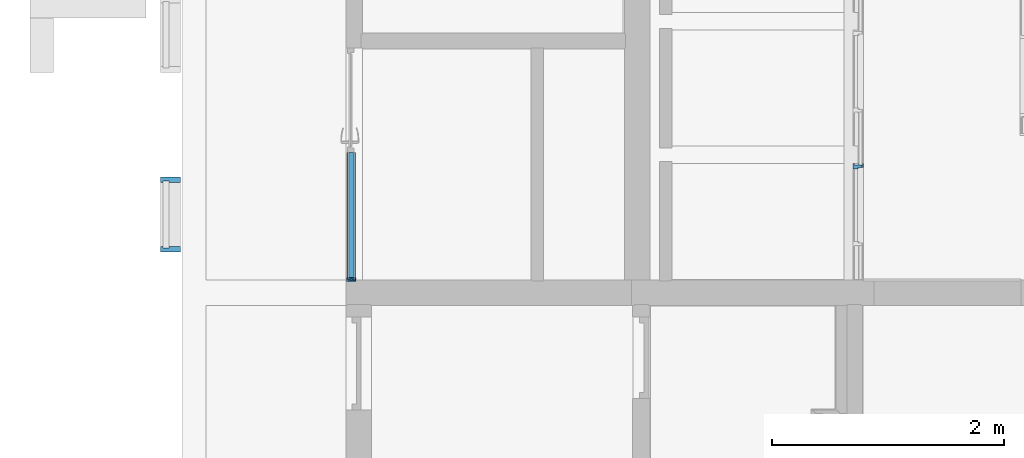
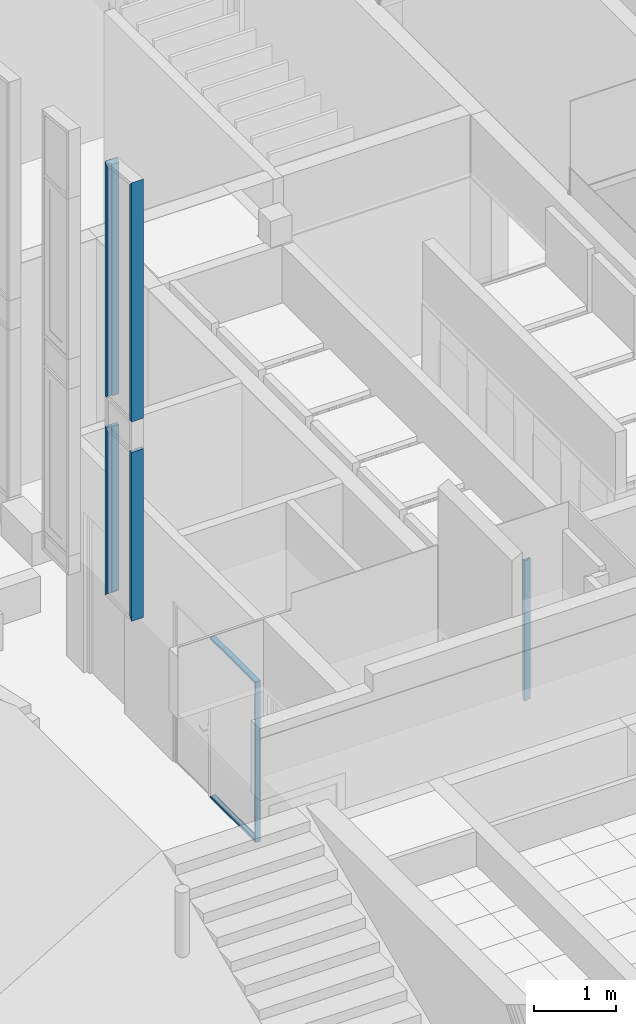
# One storey, part 58 of 246: 8 members, 3 elements without a shape of their own.
"""IFC2X3 building model written with IfcOpenShell, lengths in millimetres."""

from ifc_helpers import new_model, entity, si_unit, converted_unit, derived_unit, money_unit, direction, frame, origin_with_axes, place, context, subcontext, project, spatial, faceted_brep, material, material_list, type_object, element, aggregate, save


model = new_model("IFC2X3")

# Units and contexts
model_context = context("Model", 3, precision=0.01, world=origin_with_axes(), true_north=direction((0.0, 1.0)))
body_context = subcontext(model_context, "Body", "Model", "MODEL_VIEW")
ifc_project = project(units=[si_unit("LENGTHUNIT", "METRE", prefix="MILLI"), si_unit("AREAUNIT", "SQUARE_METRE"), si_unit("VOLUMEUNIT", "CUBIC_METRE"), converted_unit("PLANEANGLEUNIT", "DEGREE", entity("IfcPlaneAngleMeasure", 0.0174532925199), si_unit("PLANEANGLEUNIT", "RADIAN"), dimensions=[0, 0, 0, 0, 0, 0, 0]), si_unit("SOLIDANGLEUNIT", "STERADIAN"), money_unit("EUR"), converted_unit("TIMEUNIT", "Year", entity("IfcTimeMeasure", 31556926.0), si_unit("TIMEUNIT", "SECOND"), dimensions=[0, 0, 1, 0, 0, 0, 0]), si_unit("MASSUNIT", "GRAM", prefix="KILO"), si_unit("THERMODYNAMICTEMPERATUREUNIT", "DEGREE_CELSIUS"), si_unit("LUMINOUSINTENSITYUNIT", "LUMEN"), si_unit("ENERGYUNIT", "JOULE", prefix="MEGA"), derived_unit("THERMALCONDUCTANCEUNIT", [(si_unit("POWERUNIT", "WATT"), 1), (si_unit("LENGTHUNIT", "METRE"), -1), (si_unit("THERMODYNAMICTEMPERATUREUNIT", "KELVIN"), -1)]), derived_unit("SPECIFICHEATCAPACITYUNIT", [(si_unit("ENERGYUNIT", "JOULE"), 1), (si_unit("MASSUNIT", "GRAM", prefix="KILO"), -1), (si_unit("THERMODYNAMICTEMPERATUREUNIT", "KELVIN"), -1)]), derived_unit("MASSDENSITYUNIT", [(si_unit("MASSUNIT", "GRAM", prefix="KILO"), 1), (si_unit("VOLUMEUNIT", "CUBIC_METRE"), -1)])], contexts=[model_context])

# Site, building, storey
site_placement = place(None, origin_with_axes())
site = spatial("IfcSite", under=ifc_project, at=site_placement, Name="L.Koidula tn 11b", CompositionType="ELEMENT")
building_placement = place(site_placement, origin_with_axes())
building = spatial("IfcBuilding", under=site, at=building_placement, Name="Rakvere Riigigümnaasium", CompositionType="ELEMENT")
storey_placement = place(building_placement, origin_with_axes())
storey = spatial("IfcBuildingStorey", under=building, at=storey_placement, Name="1.korrus 0,00", CompositionType="ELEMENT", Elevation=0.0)

# Curtain wall, members
curtain_wall_type = type_object("IfcCurtainWallType", Name="Curtain Wall Type", PredefinedType="NOTDEFINED")
curtain_wall_1_placement = place(storey_placement, frame((35156.0871538, 17885.4554584, 3720.0), z_axis=(0.0, 0.0, 1.0), x_axis=(1.0, 0.0, 0.0)))
curtain_wall_1 = element("IfcCurtainWall", 1, at=curtain_wall_1_placement, inside=storey, type_object=curtain_wall_type, Name="KLF-04-10")
ifc_material_1 = material(Name="Alumiiniumprofiil (RAL 7021)")
member_type_1 = type_object("IfcMemberType", Name="Boundary Frame 50 x 170", PredefinedType="MULLION")
member_1_placement = place(curtain_wall_1_placement, frame((0.0, 324.999939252, 2525.00007113), z_axis=(0.0, 3.86479153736e-08, -1.0), x_axis=(0.0, -1.0, -3.86479153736e-08)))
member_1 = element("IfcMember", 2, at=member_1_placement, type_object=member_type_1, material=ifc_material_1, Name="KLF-04-61-Profiilid", ObjectType="MULLION", context=body_context, shape_type="Brep", body=[
    faceted_brep([(37.0, -26.0, 2488.0000697), (37.0, 26.0, 2488.0000697), (50.0, 26.0, 2475.0000692), (50.0, 46.0, 2475.0000692), (0.0, 46.0, 2525.00007113), (0.0, -124.0, 2525.00007113), (50.0, -124.0, 2475.0000692), (50.0, -26.0, 2475.0000692), (37.0, -26.0, -9.66197788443e-07), (37.0, 26.0, -9.66197788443e-07), (50.0, 26.0, -9.66197788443e-07), (50.0, 46.0, -9.66197788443e-07), (0.0, 46.0, -9.66197788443e-07), (0.0, -124.0, -9.66197788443e-07), (50.0, -124.0, -9.66197788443e-07), (50.0, -26.0, -9.66197788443e-07)], [[[0, 1, 2, 3, 4, 5, 6, 7]], [[1, 0, 8, 9]], [[10, 2, 1, 9]], [[2, 10, 11, 3]], [[12, 4, 3, 11]], [[13, 5, 4, 12]], [[14, 6, 5, 13]], [[15, 7, 6, 14]], [[0, 7, 15, 8]], [[8, 15, 14, 13, 12, 11, 10, 9]]]),
])
member_2_placement = place(curtain_wall_1_placement, frame((0.0, 324.999967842, 6485.07406145), z_axis=(0.0, -8.15677935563e-09, -1.0), x_axis=(0.0, -1.0, 8.15677935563e-09)))
member_2 = element("IfcMember", 3, at=member_2_placement, type_object=member_type_1, material=ifc_material_1, Name="KLF-04-67-Profiilid", ObjectType="MULLION", context=body_context, shape_type="Brep", body=[
    faceted_brep([(37.0, -26.0, 3505.07399052), (37.0, 26.0, 3505.07399052), (50.0, 26.0, 3505.07399052), (50.0, 46.0, 3505.07399052), (0.0, 46.0, 3505.07399052), (0.0, -124.0, 3505.07399052), (50.0, -124.0, 3505.07399052), (50.0, -26.0, 3505.07399052), (37.0, -26.0, 33.3149495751), (37.0, 26.0, 33.3149495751), (50.0, 26.0, 45.0202021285), (50.0, 46.0, 45.0202021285), (0.0, 46.0, 0.0), (0.0, -124.0, 0.0), (50.0, -124.0, 45.0202021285), (50.0, -26.0, 45.0202021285)], [[[0, 1, 2, 3, 4, 5, 6, 7]], [[1, 0, 8, 9]], [[10, 2, 1, 9]], [[2, 10, 11, 3]], [[4, 3, 11, 12]], [[5, 4, 12, 13]], [[6, 5, 13, 14]], [[15, 7, 6, 14]], [[0, 7, 15, 8]], [[8, 15, 14, 13, 12, 11, 10, 9]]]),
])
member_3_placement = place(curtain_wall_1_placement, frame((0.0, -324.999953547, 2980.00007113), z_axis=(0.0, 0.0, 1.0), x_axis=(0.0, 1.0, 0.0)))
member_3 = element("IfcMember", 4, at=member_3_placement, type_object=member_type_1, material=ifc_material_1, Name="KLF-04-65-Profiilid", ObjectType="MULLION", context=body_context, shape_type="Brep", body=[
    faceted_brep([(37.0, -26.0, 3532.29907813), (37.0, 26.0, 3532.29907813), (50.0, 26.0, 3517.86111529), (50.0, 46.0, 3517.86111529), (0.0, 46.0, 3573.39174159), (0.0, -124.0, 3573.39174159), (50.0, -124.0, 3517.86111529), (50.0, -26.0, 3517.86111529), (37.0, -26.0, -1.00310337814e-06), (37.0, 26.0, -1.00310337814e-06), (50.0, 26.0, -1.00310360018e-06), (50.0, 46.0, -1.00310360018e-06), (0.0, 46.0, -1.00310360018e-06), (0.0, -124.0, -1.00310360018e-06), (50.0, -124.0, -1.00310360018e-06), (50.0, -26.0, -1.00310360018e-06)], [[[0, 1, 2, 3, 4, 5, 6, 7]], [[1, 0, 8, 9]], [[10, 2, 1, 9]], [[2, 10, 11, 3]], [[12, 4, 3, 11]], [[13, 5, 4, 12]], [[14, 6, 5, 13]], [[15, 7, 6, 14]], [[0, 7, 15, 8]], [[8, 15, 14, 13, 12, 11, 10, 9]]]),
])
member_4_placement = place(curtain_wall_1_placement, frame((0.0, -324.999971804, 0.0), z_axis=(0.0, 0.0, 1.0), x_axis=(0.0, 1.0, 0.0)))
member_4 = element("IfcMember", 5, at=member_4_placement, type_object=member_type_1, material=ifc_material_1, Name="KLF-04-63-Profiilid", ObjectType="MULLION", context=body_context, shape_type="Brep", body=[
    faceted_brep([(37.0, -26.0, 2525.00007213), (37.0, 26.0, 2525.00007213), (50.0, 26.0, 2525.00007213), (50.0, 46.0, 2525.00007213), (0.0, 46.0, 2525.00007213), (0.0, -124.0, 2525.00007213), (50.0, -124.0, 2525.00007213), (50.0, -26.0, 2525.00007213), (37.0, -26.0, 37.0), (37.0, 26.0, 37.0), (50.0, 26.0, 50.0), (50.0, 46.0, 50.0), (0.0, 46.0, 0.0), (0.0, -124.0, 0.0), (50.0, -124.0, 50.0), (50.0, -26.0, 50.0)], [[[0, 1, 2, 3, 4, 5, 6, 7]], [[1, 0, 8, 9]], [[10, 2, 1, 9]], [[2, 10, 11, 3]], [[4, 3, 11, 12]], [[5, 4, 12, 13]], [[6, 5, 13, 14]], [[15, 7, 6, 14]], [[0, 7, 15, 8]], [[8, 15, 14, 13, 12, 11, 10, 9]]]),
])
aggregate(curtain_wall_1, [member_1, member_2, member_3, member_4])

curtain_wall_2_placement = place(storey_placement, frame((36749.0000697, 18870.4397072, 0.0), z_axis=(0.0, 0.0, 1.0), x_axis=(1.0, 0.0, 0.0)))
curtain_wall_2 = element("IfcCurtainWall", 6, at=curtain_wall_2_placement, inside=storey, type_object=curtain_wall_type, Name="SKLF-06")
ifc_material_2 = material(Name="Klaasvill")
ifc_material_3 = material(Name="Teras RAL7012")
ifc_material_list_1 = material_list([ifc_material_2, ifc_material_3])
member_type_2 = type_object("IfcMemberType", Name="Boundary Frame 30 x 42", PredefinedType="MULLION")
member_5_placement = place(curtain_wall_2_placement, frame((0.0, -450.0, 2400.00000748), z_axis=(0.0, -1.0, 0.0), x_axis=(0.0, 0.0, 1.0)))
member_5 = element("IfcMember", 7, at=member_5_placement, type_object=member_type_2, material=ifc_material_list_1, Name="SKLF-83-raam", ObjectType="MULLION", context=body_context, shape_type="Brep", body=[
    faceted_brep([(-7.49999990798, 15.000000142, 0.0), (-7.49999990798, 15.000000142, 1102.48412766), (-13.8499999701, 15.000000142, 1096.1341276), (-13.8499999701, 15.000000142, 0.0), (-7.49999990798, 29.0161444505, 0.0), (-7.49999990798, 29.0161444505, 1102.48412766), (-13.8499999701, 29.0161444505, 1096.1341276), (-13.8499999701, 29.0161444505, 0.0)], [[[0, 1, 2, 3]], [[4, 5, 1, 0]], [[1, 5, 6, 2]], [[3, 2, 6, 7]], [[0, 3, 7, 4]], [[7, 6, 5, 4]]]),
    faceted_brep([(-24.987414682, 29.0161444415, 0.0), (-24.987414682, 29.0161444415, 1084.99671289), (-25.004489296, 27.0307503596, 1084.97963827), (-25.004489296, 27.0307503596, 0.0), (-28.5126239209, 29.0161444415, 0.0), (-28.5126239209, 29.0161444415, 1081.47150365), (-28.7655837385, 28.0385325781, 1081.21854383), (-28.4955493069, 27.0307503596, 1081.48857826), (-27.75780152, 26.2930025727, 1082.22632605), (-26.7500193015, 26.0229681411, 1083.23410827), (-25.742237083, 26.2930025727, 1084.24189049), (-25.742237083, 26.2930025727, 0.0), (-26.7500193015, 26.0229681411, 0.0), (-27.75780152, 26.2930025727, 0.0), (-28.4955493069, 27.0307503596, 0.0), (-28.7655837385, 28.0385325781, 0.0)], [[[0, 1, 2, 3]], [[4, 5, 1, 0]], [[1, 5, 6, 7, 8, 9, 10, 2]], [[3, 2, 10, 11]], [[0, 3, 11, 12, 13, 14, 15, 4]], [[15, 6, 5, 4]], [[14, 7, 6, 15]], [[13, 8, 7, 14]], [[12, 9, 8, 13]], [[11, 10, 9, 12]]]),
    faceted_brep([(-7.49999990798, -24.9999997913, 0.0), (-7.49999990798, -24.9999997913, 1102.48412766), (-7.49999990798, -39.0161445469, 1102.48412766), (-7.49999990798, -39.0161445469, 0.0), (-13.8499999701, -24.9999997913, 0.0), (-13.8499999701, -24.9999997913, 1096.1341276), (-13.8499999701, -39.0161445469, 1096.1341276), (-13.8499999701, -39.0161445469, 0.0)], [[[0, 1, 2, 3]], [[4, 5, 1, 0]], [[1, 5, 6, 2]], [[3, 2, 6, 7]], [[0, 3, 7, 4]], [[7, 6, 5, 4]]]),
    faceted_brep([(-25.004489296, -37.0307503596, 0.0), (-25.004489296, -37.0307503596, 1084.97963827), (-24.987414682, -39.0161444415, 1084.99671289), (-24.987414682, -39.0161444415, 0.0), (-25.742237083, -36.2930025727, 0.0), (-25.742237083, -36.2930025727, 1084.24189049), (-26.7500193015, -36.0229681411, 1083.23410827), (-27.75780152, -36.2930025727, 1082.22632605), (-28.4955493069, -37.0307503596, 1081.48857826), (-28.7655837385, -38.0385325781, 1081.21854383), (-28.5126239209, -39.0161444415, 1081.47150365), (-28.5126239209, -39.0161444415, 0.0), (-28.7655837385, -38.0385325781, 0.0), (-28.4955493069, -37.0307503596, 0.0), (-27.75780152, -36.2930025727, 0.0), (-26.7500193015, -36.0229681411, 0.0)], [[[0, 1, 2, 3]], [[4, 5, 1, 0]], [[1, 5, 6, 7, 8, 9, 10, 2]], [[3, 2, 10, 11]], [[0, 3, 11, 12, 13, 14, 15, 4]], [[15, 6, 5, 4]], [[14, 7, 6, 15]], [[13, 8, 7, 14]], [[12, 9, 8, 13]], [[11, 10, 9, 12]]]),
    faceted_brep([(0.0, -22.0000000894, 0.0), (0.0, -22.0000000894, 1109.98412757), (-29.5999996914, -22.0000000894, 1080.38412788), (-29.5999996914, -22.0000000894, 0.0), (0.0, 12.0000000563, 0.0), (0.0, 12.0000000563, 1109.98412757), (-29.5999996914, 12.0000000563, 1080.38412788), (-1.9999999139, 10.0000001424, 1107.98412766), (-1.9999999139, -20.0000001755, 1107.98412766), (-18.7999996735, -20.0000001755, 1091.1841279), (-18.7999996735, 10.0000001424, 1091.1841279), (-29.5999996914, 12.0000000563, 0.0), (-1.9999999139, 10.0000001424, 0.0), (-18.7999996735, 10.0000001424, 0.0), (-18.7999996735, -20.0000001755, 0.0), (-1.9999999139, -20.0000001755, 0.0)], [[[0, 1, 2, 3]], [[4, 5, 1, 0]], [[1, 5, 6, 2], [7, 8, 9, 10]], [[3, 2, 6, 11]], [[0, 3, 11, 4], [12, 13, 14, 15]], [[11, 6, 5, 4]], [[15, 8, 7, 12]], [[14, 9, 8, 15]], [[13, 10, 9, 14]], [[12, 7, 10, 13]]]),
    faceted_brep([(0.0, 12.0, 0.0), (0.0, 12.0, 1109.98412757), (-29.5999996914, 12.0000000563, 1080.38412788), (-29.5999996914, 12.0000000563, 0.0), (0.0, 32.0, 0.0), (0.0, 32.0, 1109.98412757), (-30.0000193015, 32.0, 1079.98410827), (-30.0000193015, 29.0161444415, 1079.98410827), (-28.5126239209, 29.0161444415, 1081.47150365), (-24.987414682, 29.0161444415, 1084.99671289), (-13.8499999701, 29.0161444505, 1096.1341276), (-7.49999999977, 29.0161444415, 1102.48412757), (-7.49999999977, 15.0, 1102.48412757), (-13.8499999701, 15.000000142, 1096.1341276), (-30.0000193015, 15.0, 1079.98410827), (-30.0000193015, 12.0, 1079.98410827), (-30.0000193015, 12.0, 0.0), (-30.0000193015, 15.0, 0.0), (-13.8499999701, 15.000000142, 0.0), (-7.49999999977, 15.0, 0.0), (-7.49999999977, 29.0161444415, 0.0), (-13.8499999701, 29.0161444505, 0.0), (-24.987414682, 29.0161444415, 0.0), (-28.5126239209, 29.0161444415, 0.0), (-30.0000193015, 29.0161444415, 0.0), (-30.0000193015, 32.0, 0.0)], [[[0, 1, 2, 3]], [[4, 5, 1, 0]], [[1, 5, 6, 7, 8, 9, 10, 11, 12, 13, 14, 15, 2]], [[3, 2, 15, 16]], [[0, 3, 16, 17, 18, 19, 20, 21, 22, 23, 24, 25, 4]], [[25, 6, 5, 4]], [[24, 7, 6, 25]], [[23, 8, 7, 24]], [[22, 9, 8, 23]], [[21, 10, 9, 22]], [[20, 11, 10, 21]], [[19, 12, 11, 20]], [[18, 13, 12, 19]], [[17, 14, 13, 18]], [[16, 15, 14, 17]]]),
    faceted_brep([(0.0, -22.0, 0.0), (0.0, -22.0, 1109.98412757), (0.0, -42.0, 1109.98412757), (0.0, -42.0, 0.0), (-29.5999996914, -22.0000000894, 0.0), (-29.5999996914, -22.0000000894, 1080.38412788), (-30.0000193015, -22.0, 1079.98410827), (-30.0000193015, -25.0, 1079.98410827), (-13.8499999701, -24.9999997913, 1096.1341276), (-7.49999999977, -25.0, 1102.48412757), (-7.49999999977, -39.0161444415, 1102.48412757), (-13.8499999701, -39.0161445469, 1096.1341276), (-24.987414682, -39.0161444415, 1084.99671289), (-28.5126239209, -39.0161444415, 1081.47150365), (-30.0000193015, -39.0161444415, 1079.98410827), (-30.0000193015, -42.0, 1079.98410827), (-30.0000193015, -42.0, 0.0), (-30.0000193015, -39.0161444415, 0.0), (-28.5126239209, -39.0161444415, 0.0), (-24.987414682, -39.0161444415, 0.0), (-13.8499999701, -39.0161445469, 0.0), (-7.49999999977, -39.0161444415, 0.0), (-7.49999999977, -25.0, 0.0), (-13.8499999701, -24.9999997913, 0.0), (-30.0000193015, -25.0, 0.0), (-30.0000193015, -22.0, 0.0)], [[[0, 1, 2, 3]], [[4, 5, 1, 0]], [[1, 5, 6, 7, 8, 9, 10, 11, 12, 13, 14, 15, 2]], [[3, 2, 15, 16]], [[0, 3, 16, 17, 18, 19, 20, 21, 22, 23, 24, 25, 4]], [[25, 6, 5, 4]], [[24, 7, 6, 25]], [[23, 8, 7, 24]], [[22, 9, 8, 23]], [[21, 10, 9, 22]], [[20, 11, 10, 21]], [[19, 12, 11, 20]], [[18, 13, 12, 19]], [[17, 14, 13, 18]], [[16, 15, 14, 17]]]),
])
member_6_placement = place(curtain_wall_2_placement, frame((0.0, -1559.98412757, 0.0), z_axis=(0.0, 0.0, 1.0), x_axis=(0.0, 1.0, 0.0)))
member_6 = element("IfcMember", 8, at=member_6_placement, type_object=member_type_2, material=ifc_material_list_1, Name="SKLF-82-raam", ObjectType="MULLION", context=body_context, shape_type="Brep", body=[
    faceted_brep([(13.8499999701, 15.000000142, 13.8499999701), (13.8499999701, 15.000000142, 2386.15000751), (7.49999990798, 15.000000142, 2392.50000757), (7.49999990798, 15.000000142, 7.49999990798), (13.8499999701, 29.0161444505, 13.8499999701), (13.8499999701, 29.0161444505, 2386.15000751), (7.49999990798, 29.0161444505, 2392.50000757), (7.49999990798, 29.0161444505, 7.49999990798)], [[[0, 1, 2, 3]], [[4, 5, 1, 0]], [[2, 1, 5, 6]], [[3, 2, 6, 7]], [[3, 7, 4, 0]], [[7, 6, 5, 4]]]),
    faceted_brep([(25.004489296, 27.0307503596, 25.004489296), (25.004489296, 27.0307503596, 2374.99551818), (24.987414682, 29.0161444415, 2375.0125928), (24.987414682, 29.0161444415, 24.987414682), (25.742237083, 26.2930025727, 25.742237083), (25.742237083, 26.2930025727, 2374.2577704), (26.7500193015, 26.0229681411, 2373.24998818), (27.75780152, 26.2930025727, 2372.24220596), (28.4955493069, 27.0307503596, 2371.50445817), (28.7655837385, 28.0385325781, 2371.23442374), (28.5126239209, 29.0161444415, 2371.48738356), (28.5126239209, 29.0161444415, 28.5126239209), (28.7655837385, 28.0385325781, 28.7655837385), (28.4955493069, 27.0307503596, 28.4955493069), (27.75780152, 26.2930025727, 27.75780152), (26.7500193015, 26.0229681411, 26.7500193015)], [[[0, 1, 2, 3]], [[4, 5, 1, 0]], [[2, 1, 5, 6, 7, 8, 9, 10]], [[3, 2, 10, 11]], [[3, 11, 12, 13, 14, 15, 4, 0]], [[15, 6, 5, 4]], [[14, 7, 6, 15]], [[13, 8, 7, 14]], [[12, 9, 8, 13]], [[11, 10, 9, 12]]]),
    faceted_brep([(7.49999990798, -39.0161445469, 7.49999990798), (7.49999990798, -39.0161445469, 2392.50000757), (7.49999990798, -24.9999997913, 2392.50000757), (7.49999990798, -24.9999997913, 7.49999990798), (13.8499999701, -39.0161445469, 13.8499999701), (13.8499999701, -39.0161445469, 2386.15000751), (13.8499999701, -24.9999997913, 2386.15000751), (13.8499999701, -24.9999997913, 13.8499999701)], [[[0, 1, 2, 3]], [[4, 5, 1, 0]], [[2, 1, 5, 6]], [[3, 2, 6, 7]], [[3, 7, 4, 0]], [[7, 6, 5, 4]]]),
    faceted_brep([(24.987414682, -39.0161444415, 24.987414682), (24.987414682, -39.0161444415, 2375.0125928), (25.004489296, -37.0307503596, 2374.99551818), (25.004489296, -37.0307503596, 25.004489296), (28.5126239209, -39.0161444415, 28.5126239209), (28.5126239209, -39.0161444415, 2371.48738356), (28.7655837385, -38.0385325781, 2371.23442374), (28.4955493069, -37.0307503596, 2371.50445817), (27.75780152, -36.2930025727, 2372.24220596), (26.7500193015, -36.0229681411, 2373.24998818), (25.742237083, -36.2930025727, 2374.2577704), (25.742237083, -36.2930025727, 25.742237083), (26.7500193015, -36.0229681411, 26.7500193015), (27.75780152, -36.2930025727, 27.75780152), (28.4955493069, -37.0307503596, 28.4955493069), (28.7655837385, -38.0385325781, 28.7655837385)], [[[0, 1, 2, 3]], [[4, 5, 1, 0]], [[2, 1, 5, 6, 7, 8, 9, 10]], [[3, 2, 10, 11]], [[3, 11, 12, 13, 14, 15, 4, 0]], [[15, 6, 5, 4]], [[14, 7, 6, 15]], [[13, 8, 7, 14]], [[12, 9, 8, 13]], [[11, 10, 9, 12]]]),
    faceted_brep([(29.5999996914, -22.0000000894, 29.5999996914), (29.5999996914, -22.0000000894, 2370.40000779), (0.0, -22.0000000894, 2400.00000748), (0.0, -22.0000000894, 0.0), (29.5999996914, 12.0000000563, 29.5999996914), (29.5999996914, 12.0000000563, 2370.40000779), (0.0, 12.0000000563, 2400.00000748), (1.9999999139, 10.0000001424, 2398.00000756), (18.7999996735, 10.0000001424, 2381.20000781), (18.7999996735, -20.0000001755, 2381.20000781), (1.9999999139, -20.0000001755, 2398.00000756), (0.0, 12.0000000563, 0.0), (1.9999999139, 10.0000001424, 1.9999999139), (1.9999999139, -20.0000001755, 1.9999999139), (18.7999996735, -20.0000001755, 18.7999996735), (18.7999996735, 10.0000001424, 18.7999996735)], [[[0, 1, 2, 3]], [[4, 5, 1, 0]], [[2, 1, 5, 6], [7, 8, 9, 10]], [[3, 2, 6, 11]], [[3, 11, 4, 0], [12, 13, 14, 15]], [[11, 6, 5, 4]], [[15, 8, 7, 12]], [[14, 9, 8, 15]], [[13, 10, 9, 14]], [[12, 7, 10, 13]]]),
    faceted_brep([(29.5999996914, 12.0000000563, 29.5999996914), (29.5999996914, 12.0000000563, 2370.40000779), (0.0, 12.0, 2400.00000748), (0.0, 12.0, 0.0), (30.0000193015, 12.0, 30.0000193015), (30.0000193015, 12.0, 2369.99998818), (30.0000193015, 15.0, 2369.99998818), (13.8499999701, 15.000000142, 2386.15000751), (7.49999999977, 15.0, 2392.50000748), (7.49999999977, 29.0161444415, 2392.50000748), (13.8499999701, 29.0161444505, 2386.15000751), (24.987414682, 29.0161444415, 2375.0125928), (28.5126239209, 29.0161444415, 2371.48738356), (30.0000193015, 29.0161444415, 2369.99998818), (30.0000193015, 32.0, 2369.99998818), (0.0, 32.0, 2400.00000748), (0.0, 32.0, 0.0), (30.0000193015, 32.0, 30.0000193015), (30.0000193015, 29.0161444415, 30.0000193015), (28.5126239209, 29.0161444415, 28.5126239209), (24.987414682, 29.0161444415, 24.987414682), (13.8499999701, 29.0161444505, 13.8499999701), (7.49999999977, 29.0161444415, 7.49999999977), (7.49999999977, 15.0, 7.49999999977), (13.8499999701, 15.000000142, 13.8499999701), (30.0000193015, 15.0, 30.0000193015)], [[[0, 1, 2, 3]], [[4, 5, 1, 0]], [[2, 1, 5, 6, 7, 8, 9, 10, 11, 12, 13, 14, 15]], [[3, 2, 15, 16]], [[3, 16, 17, 18, 19, 20, 21, 22, 23, 24, 25, 4, 0]], [[25, 6, 5, 4]], [[24, 7, 6, 25]], [[23, 8, 7, 24]], [[22, 9, 8, 23]], [[21, 10, 9, 22]], [[20, 11, 10, 21]], [[19, 12, 11, 20]], [[18, 13, 12, 19]], [[17, 14, 13, 18]], [[16, 15, 14, 17]]]),
    faceted_brep([(0.0, -42.0, 0.0), (0.0, -42.0, 2400.00000748), (0.0, -22.0, 2400.00000748), (0.0, -22.0, 0.0), (30.0000193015, -42.0, 30.0000193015), (30.0000193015, -42.0, 2369.99998818), (30.0000193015, -39.0161444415, 2369.99998818), (28.5126239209, -39.0161444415, 2371.48738356), (24.987414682, -39.0161444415, 2375.0125928), (13.8499999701, -39.0161445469, 2386.15000751), (7.49999999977, -39.0161444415, 2392.50000748), (7.49999999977, -25.0, 2392.50000748), (13.8499999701, -24.9999997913, 2386.15000751), (30.0000193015, -25.0, 2369.99998818), (30.0000193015, -22.0, 2369.99998818), (29.5999996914, -22.0000000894, 2370.40000779), (29.5999996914, -22.0000000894, 29.5999996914), (30.0000193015, -22.0, 30.0000193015), (30.0000193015, -25.0, 30.0000193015), (13.8499999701, -24.9999997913, 13.8499999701), (7.49999999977, -25.0, 7.49999999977), (7.49999999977, -39.0161444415, 7.49999999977), (13.8499999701, -39.0161445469, 13.8499999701), (24.987414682, -39.0161444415, 24.987414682), (28.5126239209, -39.0161444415, 28.5126239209), (30.0000193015, -39.0161444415, 30.0000193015)], [[[0, 1, 2, 3]], [[4, 5, 1, 0]], [[2, 1, 5, 6, 7, 8, 9, 10, 11, 12, 13, 14, 15]], [[3, 2, 15, 16]], [[3, 16, 17, 18, 19, 20, 21, 22, 23, 24, 25, 4, 0]], [[25, 6, 5, 4]], [[24, 7, 6, 25]], [[23, 8, 7, 24]], [[22, 9, 8, 23]], [[21, 10, 9, 22]], [[20, 11, 10, 21]], [[19, 12, 11, 20]], [[18, 13, 12, 19]], [[17, 14, 13, 18]], [[16, 15, 14, 17]]]),
])
member_7_placement = place(curtain_wall_2_placement, frame((0.0, -450.0, 0.0), z_axis=(0.0, -1.0, 0.0), x_axis=(0.0, 0.0, 1.0)))
member_7 = element("IfcMember", 9, at=member_7_placement, type_object=member_type_2, material=ifc_material_list_1, Name="SKLF-81-raam", ObjectType="MULLION", context=body_context, shape_type="Brep", body=[
    faceted_brep([(7.49999990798, 15.000000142, 0.0), (13.8499999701, 15.000000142, 0.0), (13.8499999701, 15.000000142, 1096.1341276), (7.49999990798, 15.000000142, 1102.48412766), (7.49999990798, 29.0161444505, 0.0), (13.8499999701, 29.0161444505, 0.0), (13.8499999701, 29.0161444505, 1096.1341276), (7.49999990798, 29.0161444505, 1102.48412766)], [[[0, 1, 2, 3]], [[0, 4, 5, 1]], [[1, 5, 6, 2]], [[3, 2, 6, 7]], [[4, 0, 3, 7]], [[5, 4, 7, 6]]]),
    faceted_brep([(24.987414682, 29.0161444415, 0.0), (25.004489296, 27.0307503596, 0.0), (25.004489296, 27.0307503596, 1084.97963827), (24.987414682, 29.0161444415, 1084.99671289), (28.5126239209, 29.0161444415, 0.0), (28.7655837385, 28.0385325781, 0.0), (28.4955493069, 27.0307503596, 0.0), (27.75780152, 26.2930025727, 0.0), (26.7500193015, 26.0229681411, 0.0), (25.742237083, 26.2930025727, 0.0), (25.742237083, 26.2930025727, 1084.24189049), (26.7500193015, 26.0229681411, 1083.23410827), (27.75780152, 26.2930025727, 1082.22632605), (28.4955493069, 27.0307503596, 1081.48857826), (28.7655837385, 28.0385325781, 1081.21854383), (28.5126239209, 29.0161444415, 1081.47150365)], [[[0, 1, 2, 3]], [[0, 4, 5, 6, 7, 8, 9, 1]], [[1, 9, 10, 2]], [[3, 2, 10, 11, 12, 13, 14, 15]], [[4, 0, 3, 15]], [[5, 4, 15, 14]], [[6, 5, 14, 13]], [[7, 6, 13, 12]], [[8, 7, 12, 11]], [[9, 8, 11, 10]]]),
    faceted_brep([(7.49999990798, -24.9999997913, 0.0), (7.49999990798, -39.0161445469, 0.0), (7.49999990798, -39.0161445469, 1102.48412766), (7.49999990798, -24.9999997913, 1102.48412766), (13.8499999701, -24.9999997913, 0.0), (13.8499999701, -39.0161445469, 0.0), (13.8499999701, -39.0161445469, 1096.1341276), (13.8499999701, -24.9999997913, 1096.1341276)], [[[0, 1, 2, 3]], [[0, 4, 5, 1]], [[1, 5, 6, 2]], [[3, 2, 6, 7]], [[4, 0, 3, 7]], [[5, 4, 7, 6]]]),
    faceted_brep([(25.004489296, -37.0307503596, 0.0), (24.987414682, -39.0161444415, 0.0), (24.987414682, -39.0161444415, 1084.99671289), (25.004489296, -37.0307503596, 1084.97963827), (25.742237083, -36.2930025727, 0.0), (26.7500193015, -36.0229681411, 0.0), (27.75780152, -36.2930025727, 0.0), (28.4955493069, -37.0307503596, 0.0), (28.7655837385, -38.0385325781, 0.0), (28.5126239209, -39.0161444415, 0.0), (28.5126239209, -39.0161444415, 1081.47150365), (28.7655837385, -38.0385325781, 1081.21854383), (28.4955493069, -37.0307503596, 1081.48857826), (27.75780152, -36.2930025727, 1082.22632605), (26.7500193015, -36.0229681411, 1083.23410827), (25.742237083, -36.2930025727, 1084.24189049)], [[[0, 1, 2, 3]], [[0, 4, 5, 6, 7, 8, 9, 1]], [[1, 9, 10, 2]], [[3, 2, 10, 11, 12, 13, 14, 15]], [[4, 0, 3, 15]], [[5, 4, 15, 14]], [[6, 5, 14, 13]], [[7, 6, 13, 12]], [[8, 7, 12, 11]], [[9, 8, 11, 10]]]),
    faceted_brep([(0.0, -22.0000000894, 0.0), (29.5999996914, -22.0000000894, 0.0), (29.5999996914, -22.0000000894, 1080.38412788), (0.0, -22.0000000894, 1109.98412757), (0.0, 12.0000000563, 0.0), (29.5999996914, 12.0000000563, 0.0), (1.9999999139, 10.0000001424, 0.0), (1.9999999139, -20.0000001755, 0.0), (18.7999996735, -20.0000001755, 0.0), (18.7999996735, 10.0000001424, 0.0), (29.5999996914, 12.0000000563, 1080.38412788), (0.0, 12.0000000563, 1109.98412757), (1.9999999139, 10.0000001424, 1107.98412766), (18.7999996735, 10.0000001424, 1091.1841279), (18.7999996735, -20.0000001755, 1091.1841279), (1.9999999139, -20.0000001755, 1107.98412766)], [[[0, 1, 2, 3]], [[0, 4, 5, 1], [6, 7, 8, 9]], [[1, 5, 10, 2]], [[3, 2, 10, 11], [12, 13, 14, 15]], [[4, 0, 3, 11]], [[5, 4, 11, 10]], [[7, 6, 12, 15]], [[8, 7, 15, 14]], [[9, 8, 14, 13]], [[6, 9, 13, 12]]]),
    faceted_brep([(0.0, 12.0, 0.0), (29.5999996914, 12.0000000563, 0.0), (29.5999996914, 12.0000000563, 1080.38412788), (0.0, 12.0, 1109.98412757), (0.0, 32.0, 0.0), (30.0000193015, 32.0, 0.0), (30.0000193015, 29.0161444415, 0.0), (28.5126239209, 29.0161444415, 0.0), (24.987414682, 29.0161444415, 0.0), (13.8499999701, 29.0161444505, 0.0), (7.49999999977, 29.0161444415, 0.0), (7.49999999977, 15.0, 0.0), (13.8499999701, 15.000000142, 0.0), (30.0000193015, 15.0, 0.0), (30.0000193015, 12.0, 0.0), (30.0000193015, 12.0, 1079.98410827), (30.0000193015, 15.0, 1079.98410827), (13.8499999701, 15.000000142, 1096.1341276), (7.49999999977, 15.0, 1102.48412757), (7.49999999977, 29.0161444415, 1102.48412757), (13.8499999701, 29.0161444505, 1096.1341276), (24.987414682, 29.0161444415, 1084.99671289), (28.5126239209, 29.0161444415, 1081.47150365), (30.0000193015, 29.0161444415, 1079.98410827), (30.0000193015, 32.0, 1079.98410827), (0.0, 32.0, 1109.98412757)], [[[0, 1, 2, 3]], [[0, 4, 5, 6, 7, 8, 9, 10, 11, 12, 13, 14, 1]], [[1, 14, 15, 2]], [[3, 2, 15, 16, 17, 18, 19, 20, 21, 22, 23, 24, 25]], [[4, 0, 3, 25]], [[5, 4, 25, 24]], [[6, 5, 24, 23]], [[7, 6, 23, 22]], [[8, 7, 22, 21]], [[9, 8, 21, 20]], [[10, 9, 20, 19]], [[11, 10, 19, 18]], [[12, 11, 18, 17]], [[13, 12, 17, 16]], [[14, 13, 16, 15]]]),
    faceted_brep([(0.0, -22.0, 0.0), (0.0, -42.0, 0.0), (0.0, -42.0, 1109.98412757), (0.0, -22.0, 1109.98412757), (29.5999996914, -22.0000000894, 0.0), (30.0000193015, -22.0, 0.0), (30.0000193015, -25.0, 0.0), (13.8499999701, -24.9999997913, 0.0), (7.49999999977, -25.0, 0.0), (7.49999999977, -39.0161444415, 0.0), (13.8499999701, -39.0161445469, 0.0), (24.987414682, -39.0161444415, 0.0), (28.5126239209, -39.0161444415, 0.0), (30.0000193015, -39.0161444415, 0.0), (30.0000193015, -42.0, 0.0), (30.0000193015, -42.0, 1079.98410827), (30.0000193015, -39.0161444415, 1079.98410827), (28.5126239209, -39.0161444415, 1081.47150365), (24.987414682, -39.0161444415, 1084.99671289), (13.8499999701, -39.0161445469, 1096.1341276), (7.49999999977, -39.0161444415, 1102.48412757), (7.49999999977, -25.0, 1102.48412757), (13.8499999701, -24.9999997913, 1096.1341276), (30.0000193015, -25.0, 1079.98410827), (30.0000193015, -22.0, 1079.98410827), (29.5999996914, -22.0000000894, 1080.38412788)], [[[0, 1, 2, 3]], [[0, 4, 5, 6, 7, 8, 9, 10, 11, 12, 13, 14, 1]], [[1, 14, 15, 2]], [[3, 2, 15, 16, 17, 18, 19, 20, 21, 22, 23, 24, 25]], [[4, 0, 3, 25]], [[5, 4, 25, 24]], [[6, 5, 24, 23]], [[7, 6, 23, 22]], [[8, 7, 22, 21]], [[9, 8, 21, 20]], [[10, 9, 20, 19]], [[11, 10, 19, 18]], [[12, 11, 18, 17]], [[13, 12, 17, 16]], [[14, 13, 16, 15]]]),
])
aggregate(curtain_wall_2, [member_5, member_6, member_7])

# Curtain wall, member
curtain_wall_3_placement = place(storey_placement, frame((41170.0073165, 24038.4555472, 1.56205997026e-05), z_axis=(0.0, 0.0, 1.0), x_axis=(1.0, 0.0, 0.0)))
curtain_wall_3 = element("IfcCurtainWall", 10, at=curtain_wall_3_placement, inside=storey, type_object=curtain_wall_type, Name="SUS-01")
ifc_material_4 = material(Name="MDF")
ifc_material_5 = material(Name="Alumiiniumprofiil")
ifc_material_list_2 = material_list([ifc_material_4, ifc_material_5])
member_type_3 = type_object("IfcMemberType", Name="SA-Siseuksesüsteem-P 46 x 0", PredefinedType="MULLION")
member_8_placement = place(curtain_wall_3_placement, frame((0.0, -5747.00003493, -1.56205997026e-05), z_axis=(0.0, 0.0, 1.0), x_axis=(0.0, 1.0, 0.0)))
member_8 = element("IfcMember", 11, at=member_8_placement, type_object=member_type_3, material=ifc_material_list_2, Name="Frame-SA-Siseuks-021", ObjectType="MULLION", context=body_context, shape_type="Brep", body=[
    faceted_brep([(-10.0000294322, 81.9999773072, 0.0), (33.9201643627, 81.9999773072, 0.0), (33.9201643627, 81.9999773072, 2099.99998859), (-10.0000294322, 81.9999773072, 2099.99998859), (-10.0000294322, 91.9999779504, 0.0), (33.9201643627, 91.9999779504, 0.0), (33.9201643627, 91.9999779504, 2099.99998859), (-10.0000294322, 91.9999779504, 2099.99998859)], [[[0, 1, 2, 3]], [[4, 5, 1, 0]], [[5, 6, 2, 1]], [[3, 2, 6, 7]], [[3, 7, 4, 0]], [[7, 6, 5, 4]]]),
    faceted_brep([(22.4999997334, 78.0000000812, 0.0), (33.9201643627, 78.0000000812, 0.0), (33.9201643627, 78.0000000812, 2099.99998859), (22.4999997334, 78.0000000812, 2099.99998859), (33.9201643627, 47.600000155, 0.0), (33.9201643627, 45.000028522, 0.0), (33.9999997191, 45.000028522, 0.0), (33.9999997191, 44.3999997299, 0.0), (22.4999997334, 44.3999997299, 0.0), (22.4999997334, 13.9999998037, 0.0), (33.9999997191, 13.9999998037, 0.0), (33.9999997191, 9.99997870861, 0.0), (32.0000001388, 9.99997870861, 0.0), (32.0000001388, 10.49999951, 0.0), (2.00000095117, 10.49999951, 0.0), (1.99999958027, 10.0000006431, 0.0), (2.00000095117, 0.0, 0.0), (0.0, 0.0, 0.0), (0.0, 32.9000011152, 0.0), (0.0, 47.5000006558, 0.0), (-12.0000002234, 47.5000006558, 0.0), (-12.0000002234, 91.9999779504, 0.0), (-10.0000006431, 91.9999779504, 0.0), (-10.0000294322, 81.9999773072, 0.0), (-9.99999927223, 81.5000003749, 0.0), (24.2499991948, 81.5000003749, 0.0), (33.9201643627, 81.5000003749, 0.0), (22.4999997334, 47.600000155, 0.0), (33.9201643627, 81.5000003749, 2099.99998859), (33.9999997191, 45.000028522, 2099.99998859), (33.9201643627, 45.000028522, 2099.99998859), (33.9201643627, 47.600000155, 2099.99998859), (22.4999997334, 47.600000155, 2099.99998859), (24.2499991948, 81.5000003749, 2099.99998859), (-9.99999927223, 81.5000003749, 2099.99998859), (-10.0000294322, 81.9999773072, 2099.99998859), (-10.0000006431, 91.9999779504, 2099.99998859), (-12.0000002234, 91.9999779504, 2099.99998859), (-12.0000002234, 47.5000006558, 2099.99998859), (0.0, 47.5000006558, 2099.99998859), (0.0, 32.9000011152, 2099.99998859), (0.0, 0.0, 2099.99998859), (2.00000095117, 0.0, 2099.99998859), (1.99999958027, 10.0000006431, 2099.99998859), (2.00000095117, 10.49999951, 2099.99998859), (32.0000001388, 10.49999951, 2099.99998859), (32.0000001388, 9.99997870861, 2099.99998859), (33.9999997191, 9.99997870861, 2099.99998859), (33.9999997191, 13.9999998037, 2099.99998859), (22.4999997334, 13.9999998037, 2099.99998859), (22.4999997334, 44.3999997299, 2099.99998859), (33.9999997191, 44.3999997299, 2099.99998859)], [[[0, 1, 2, 3]], [[4, 5, 6, 7, 8, 9, 10, 11, 12, 13, 14, 15, 16, 17, 18, 19, 20, 21, 22, 23, 24, 25, 26, 1, 0, 27]], [[26, 28, 2, 1]], [[29, 30, 31, 32, 3, 2, 28, 33, 34, 35, 36, 37, 38, 39, 40, 41, 42, 43, 44, 45, 46, 47, 48, 49, 50, 51]], [[3, 32, 27, 0]], [[4, 31, 30, 5]], [[5, 30, 29, 6]], [[7, 6, 29, 51]], [[51, 50, 8, 7]], [[50, 49, 9, 8]], [[49, 48, 10, 9]], [[48, 47, 11, 10]], [[47, 46, 12, 11]], [[46, 45, 13, 12]], [[45, 44, 14, 13]], [[44, 43, 15, 14]], [[43, 42, 16, 15]], [[42, 41, 17, 16]], [[41, 40, 18, 17]], [[40, 39, 19, 18]], [[39, 38, 20, 19]], [[38, 37, 21, 20]], [[37, 36, 22, 21]], [[36, 35, 23, 22]], [[35, 34, 24, 23]], [[34, 33, 25, 24]], [[33, 28, 26, 25]], [[32, 31, 4, 27]]]),
    faceted_brep([(33.9999997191, 9.99997870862, 0.0), (1.99999958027, 10.0000006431, 0.0), (1.99999958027, 10.0000006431, 2099.99998859), (33.9999997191, 9.99997870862, 2099.99998859), (33.9999997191, 0.0, 0.0), (1.99999958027, 0.0, 0.0), (1.99999958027, 0.0, 2099.99998859), (33.9999997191, 0.0, 2099.99998859)], [[[0, 1, 2, 3]], [[0, 4, 5, 1]], [[1, 5, 6, 2]], [[3, 2, 6, 7]], [[4, 0, 3, 7]], [[5, 4, 7, 6]]]),
])
aggregate(curtain_wall_3, [member_8])

save(model, "model.ifc")
